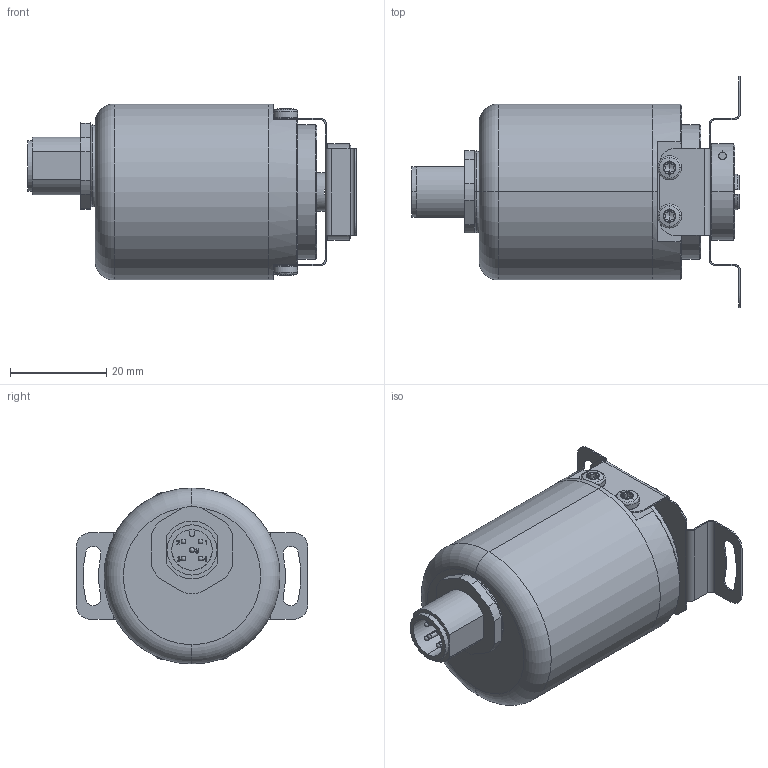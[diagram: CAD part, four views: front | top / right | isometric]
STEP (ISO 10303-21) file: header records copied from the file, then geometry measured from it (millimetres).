
FILE_DESCRIPTION (( 'STEP AP214' ), '1' );
FILE_NAME ('Produkt-Datenblattobjekte_85964~0.STEP', '2011-08-31T06:02:37', ( '' ), ( '' ), 'SwSTEP 2.0', 'SolidWorks 2011', '' );
FILE_SCHEMA (( 'AUTOMOTIVE_DESIGN' ));
Length unit declared in the file: millimetre
Products named in the file (6): Produkt-Datenblattobjekte_85964e~0; Produkt-Datenblattobjekte_85964d~0; Produkt-Datenblattobjekte_85964c~0; Produkt-Datenblattobjekte_85964b~0; Produkt-Datenblattobjekte_85964a~0; Produkt-Datenblattobjekte_85964~0
Assembly tree (8 placements, depth 2):
  Produkt-Datenblattobjekte_85964~0
    Produkt-Datenblattobjekte_85964c~0
    Produkt-Datenblattobjekte_85964a~0
    Produkt-Datenblattobjekte_85964e~0  x4
    Produkt-Datenblattobjekte_85964b~0
    Produkt-Datenblattobjekte_85964d~0
Bounding box: 68.2 x 48 x 36.5 mm (x, y, z)
Volume: 48642.8 mm3; surface area: 15743.7 mm2
Topology: 11 solids, 11 shells, 763 faces, 2039 edges, 1306 vertices
Faces by surface type: cylinder 256, bspline 219, plane 173, cone 100, torus 10, sphere 5
Entity records: 29198 total; most frequent: CARTESIAN_POINT 16192, ORIENTED_EDGE 2284, DIRECTION 1924, EDGE_CURVE 1142, VERTEX_POINT 732, AXIS2_PLACEMENT_3D 696, VECTOR 532, LINE 532
